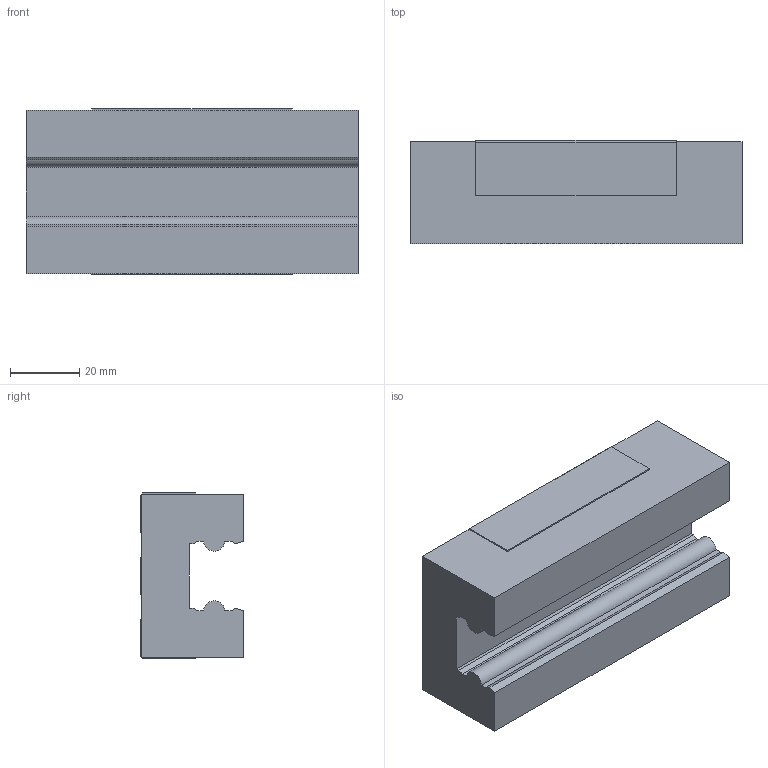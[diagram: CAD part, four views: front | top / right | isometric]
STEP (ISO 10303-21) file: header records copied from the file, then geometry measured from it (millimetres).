
FILE_DESCRIPTION( ( '' ), '1' );
FILE_NAME( 'c:/dr_tretter_step_out/schienenfuehrungen/alu_sf/gns_2500.stp', '2008-09-03T09:11:50', ( '' ), ( '' ), ' ', ' ', ' ' );
FILE_SCHEMA( ( 'CONFIG_CONTROL_DESIGN' ) );
Length unit declared in the file: millimetre
Products named in the file (1): 1
Bounding box: 96 x 29.9 x 48 mm (x, y, z)
Volume: 106349.5 mm3; surface area: 21547.8 mm2
Topology: 1 solids, 1 shells, 74 faces, 192 edges, 116 vertices
Faces by surface type: plane 48, cone 16, cylinder 10
Entity records: 2200 total; most frequent: CARTESIAN_POINT 375, ORIENTED_EDGE 368, DIRECTION 362, EDGE_CURVE 184, LINE 156, VECTOR 156, VERTEX_POINT 116, AXIS2_PLACEMENT_3D 103
